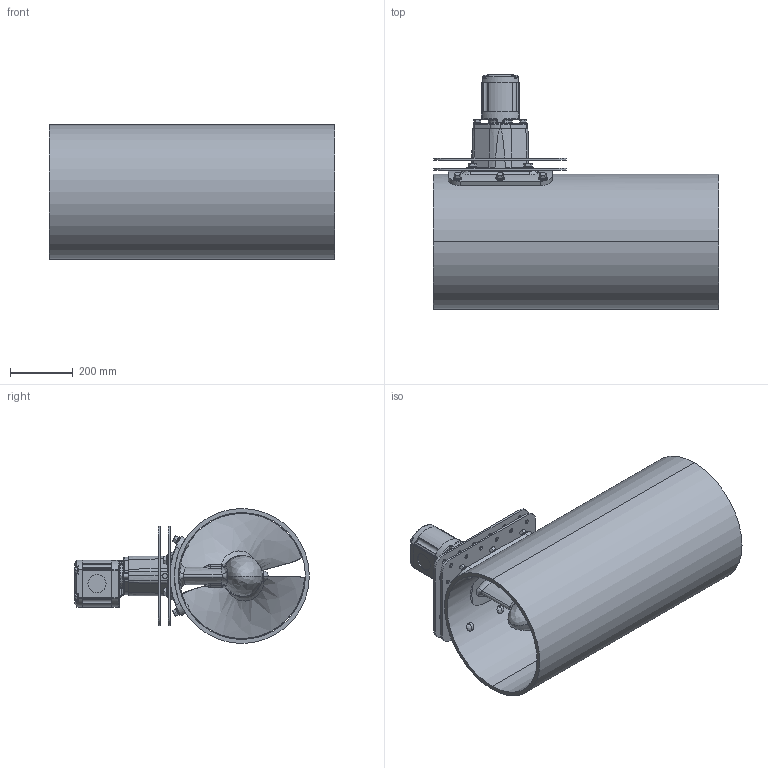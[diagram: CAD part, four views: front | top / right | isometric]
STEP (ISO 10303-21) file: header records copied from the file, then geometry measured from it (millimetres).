
FILE_DESCRIPTION (( 'STEP AP214' ), '1' );
FILE_NAME ('KP16X-H-ST_revA.STEP', '2021-02-16T18:24:16', ( '' ), ( '' ), 'SwSTEP 2.0', 'SolidWorks 2019', '' );
FILE_SCHEMA (( 'AUTOMOTIVE_DESIGN' ));
Length unit declared in the file: inch
Products named in the file (2): KP16X-H-ST_revA
Bounding box: 914.4 x 750.82 x 431.8 mm (x, y, z)
Volume: 29038778.8 mm3; surface area: 3470017.5 mm2
Topology: 3 solids, 3 shells, 1077 faces, 2715 edges, 1643 vertices
Faces by surface type: cylinder 355, plane 308, bspline 190, cone 149, torus 57, sphere 18
Entity records: 50742 total; most frequent: CARTESIAN_POINT 26666, ORIENTED_EDGE 5344, DIRECTION 4658, EDGE_CURVE 2672, AXIS2_PLACEMENT_3D 1913, VERTEX_POINT 1639, EDGE_LOOP 1199, ADVANCED_FACE 1077
